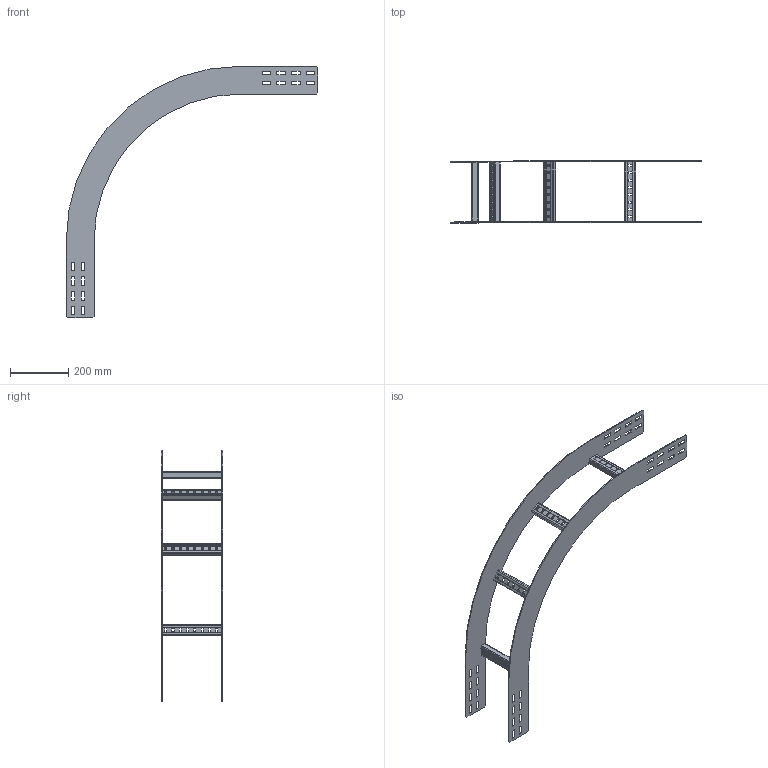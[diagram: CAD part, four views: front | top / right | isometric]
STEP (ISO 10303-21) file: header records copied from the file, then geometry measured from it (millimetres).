
FILE_DESCRIPTION(('Creo Elements/Direct Modeling STEP Export'),'2;1');
FILE_NAME('WPOR10-20-90-45.stp','2016-06-02T 9:29:26',(''),(''),'PTC Creo Elements/Direct Modeling STEP processor for AP214 (Solid Model)','PTC Creo Elements/Direct Modeling 19.0C 15-Aug-2015 (C) Parametric Technology GmbH','');
FILE_SCHEMA(('AUTOMOTIVE_DESIGN { 1 0 10303 214 1 1 1 1 }'));
Length unit declared in the file: millimetre
Products named in the file (3): WPIBG100_450.1; WPHBS20; WPOR10-20-90-45
Assembly tree (6 placements, depth 2):
  WPOR10-20-90-45
    WPHBS20  x4
    WPIBG100_450.1  x2
Bounding box: 860 x 211 x 860 mm (x, y, z)
Volume: 878630.7 mm3; surface area: 696932.4 mm2
Topology: 6 solids, 6 shells, 444 faces, 1296 edges, 864 vertices
Faces by surface type: plane 304, cylinder 140
Entity records: 5137 total; most frequent: CARTESIAN_POINT 887, ORIENTED_EDGE 876, DIRECTION 824, EDGE_CURVE 438, VECTOR 366, LINE 366, VERTEX_POINT 292, AXIS2_PLACEMENT_3D 229
